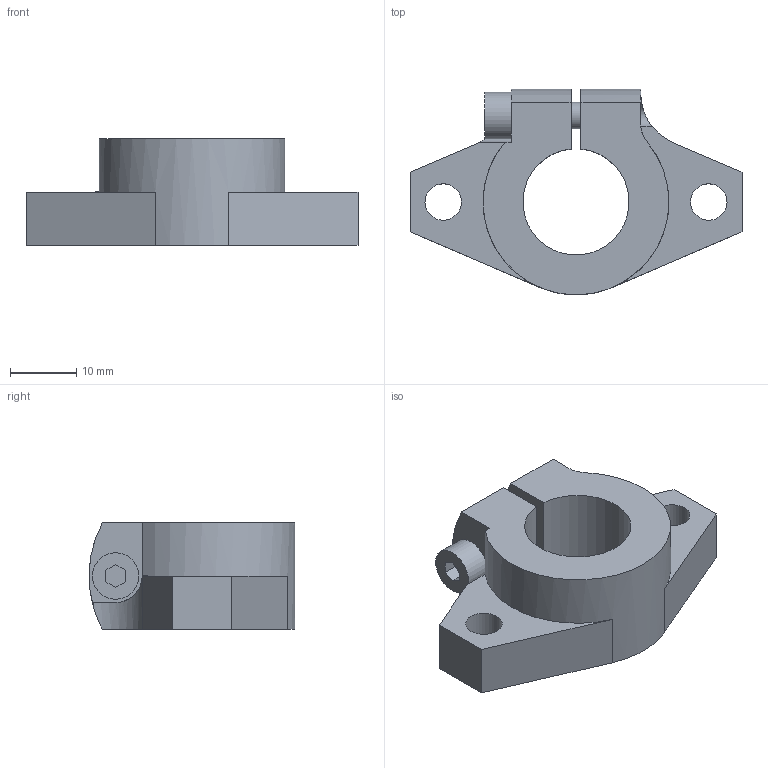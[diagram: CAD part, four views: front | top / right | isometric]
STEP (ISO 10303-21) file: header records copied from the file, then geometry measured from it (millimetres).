
FILE_DESCRIPTION(('STEP AP203'),'1');
FILE_NAME('//192.168.1.1/share/s-4 技術開発/s-4-14_個人別フォルダ/橋詰/09_CAD_DATA/3D/HP用/3Ｄモデル/SNF/SNF-16A.step','2021-09-16T23:47:57',(' '),(' '),'Spatial InterOp 3D',' ',' ');
FILE_SCHEMA(('CONFIG_CONTROL_DESIGN'));
Length unit declared in the file: millimetre
Products named in the file (2): 1; 2
Bounding box: 50 x 31 x 16 mm (x, y, z)
Volume: 10208.5 mm3; surface area: 5264.4 mm2
Topology: 2 solids, 2 shells, 43 faces, 112 edges, 74 vertices
Faces by surface type: plane 27, cylinder 15, cone 1
Full cylindrical faces by diameter (mm): 3.3 x1, 4 x2, 4.5 x1, 5.5 x2, 7 x1
Entity records: 1442 total; most frequent: CARTESIAN_POINT 305, DIRECTION 218, ORIENTED_EDGE 204, EDGE_CURVE 102, AXIS2_PLACEMENT_3D 77, VERTEX_POINT 72, LINE 64, VECTOR 64
